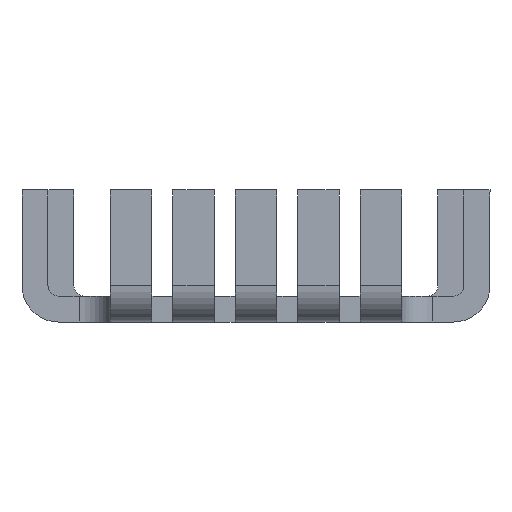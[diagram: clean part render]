
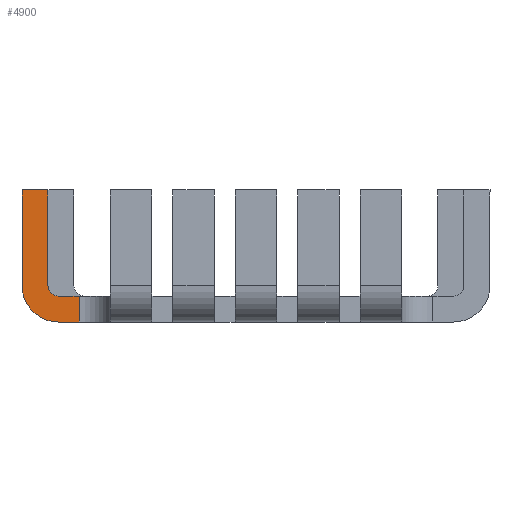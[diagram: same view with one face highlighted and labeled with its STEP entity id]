
A CAD part, front view. The second image highlights one B-rep face of the part: STEP entity #4900.
In plain terms, the highlighted planar face has unit normal (0, -1, 0).
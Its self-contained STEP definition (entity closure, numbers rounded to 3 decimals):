
#1084=CARTESIAN_POINT('',(19.808,25.367,0.0));
#1085=VERTEX_POINT('',#1084);
#1093=CARTESIAN_POINT('',(17.808,25.367,0.0));
#1094=VERTEX_POINT('',#1093);
#1095=CARTESIAN_POINT('',(17.808,25.367,0.0));
#1096=DIRECTION('',(1.0,0.0,0.0));
#1097=VECTOR('',#1096,2.);
#1098=LINE('',#1095,#1097);
#1099=EDGE_CURVE('',#1094,#1085,#1098,.T.);
#1895=CARTESIAN_POINT('',(16.808,25.367,3.5));
#1896=VERTEX_POINT('',#1895);
#1905=CARTESIAN_POINT('',(17.808,25.367,2.5));
#1906=VERTEX_POINT('',#1905);
#1907=CARTESIAN_POINT('',(17.808,25.367,3.5));
#1908=DIRECTION('',(0.0,1.0,0.0));
#1909=DIRECTION('',(0.0,0.0,-1.0));
#1910=AXIS2_PLACEMENT_3D('',#1907,#1908,#1909);
#1911=CIRCLE('',#1910,1.0);
#1912=EDGE_CURVE('',#1906,#1896,#1911,.T.);
#1939=CARTESIAN_POINT('',(14.308,25.367,3.5));
#1940=VERTEX_POINT('',#1939);
#1955=CARTESIAN_POINT('',(17.808,25.367,3.5));
#1956=DIRECTION('',(0.0,1.0,0.0));
#1957=DIRECTION('',(0.0,0.0,-1.0));
#1958=AXIS2_PLACEMENT_3D('',#1955,#1956,#1957);
#1959=CIRCLE('',#1958,3.5);
#1960=EDGE_CURVE('',#1094,#1940,#1959,.T.);
#2518=CARTESIAN_POINT('',(19.808,25.367,2.5));
#2519=VERTEX_POINT('',#2518);
#2520=CARTESIAN_POINT('',(19.808,25.367,2.5));
#2521=DIRECTION('',(-1.0,0.0,0.0));
#2522=VECTOR('',#2521,2.);
#2523=LINE('',#2520,#2522);
#2524=EDGE_CURVE('',#2519,#1906,#2523,.T.);
#4566=CARTESIAN_POINT('',(19.808,25.367,0.0));
#4567=DIRECTION('',(0.0,0.0,1.0));
#4568=VECTOR('',#4567,2.5);
#4569=LINE('',#4566,#4568);
#4570=EDGE_CURVE('',#1085,#2519,#4569,.T.);
#4855=CARTESIAN_POINT('',(14.308,25.367,12.7));
#4856=VERTEX_POINT('',#4855);
#4857=CARTESIAN_POINT('',(14.308,25.367,12.7));
#4858=DIRECTION('',(0.0,0.0,-1.0));
#4859=VECTOR('',#4858,9.2);
#4860=LINE('',#4857,#4859);
#4861=EDGE_CURVE('',#4856,#1940,#4860,.T.);
#4873=CARTESIAN_POINT('',(14.308,25.367,2.5));
#4874=DIRECTION('',(0.0,-1.0,0.0));
#4875=DIRECTION('',(0.0,0.0,-1.0));
#4876=AXIS2_PLACEMENT_3D('',#4873,#4874,#4875);
#4877=PLANE('',#4876);
#4878=CARTESIAN_POINT('',(16.808,25.367,12.7));
#4879=VERTEX_POINT('',#4878);
#4880=CARTESIAN_POINT('',(16.808,25.367,3.5));
#4881=DIRECTION('',(0.0,0.0,1.0));
#4882=VECTOR('',#4881,9.2);
#4883=LINE('',#4880,#4882);
#4884=EDGE_CURVE('',#1896,#4879,#4883,.T.);
#4885=ORIENTED_EDGE('',*,*,#4884,.T.);
#4886=CARTESIAN_POINT('',(14.308,25.367,12.7));
#4887=DIRECTION('',(1.0,0.0,0.0));
#4888=VECTOR('',#4887,2.5);
#4889=LINE('',#4886,#4888);
#4890=EDGE_CURVE('',#4856,#4879,#4889,.T.);
#4891=ORIENTED_EDGE('',*,*,#4890,.F.);
#4892=ORIENTED_EDGE('',*,*,#4861,.T.);
#4893=ORIENTED_EDGE('',*,*,#1960,.F.);
#4894=ORIENTED_EDGE('',*,*,#1099,.T.);
#4895=ORIENTED_EDGE('',*,*,#4570,.T.);
#4896=ORIENTED_EDGE('',*,*,#2524,.T.);
#4897=ORIENTED_EDGE('',*,*,#1912,.T.);
#4898=EDGE_LOOP('',(#4885,#4891,#4892,#4893,#4894,#4895,#4896,#4897));
#4899=FACE_OUTER_BOUND('',#4898,.T.);
#4900=ADVANCED_FACE('',(#4899),#4877,.T.);
